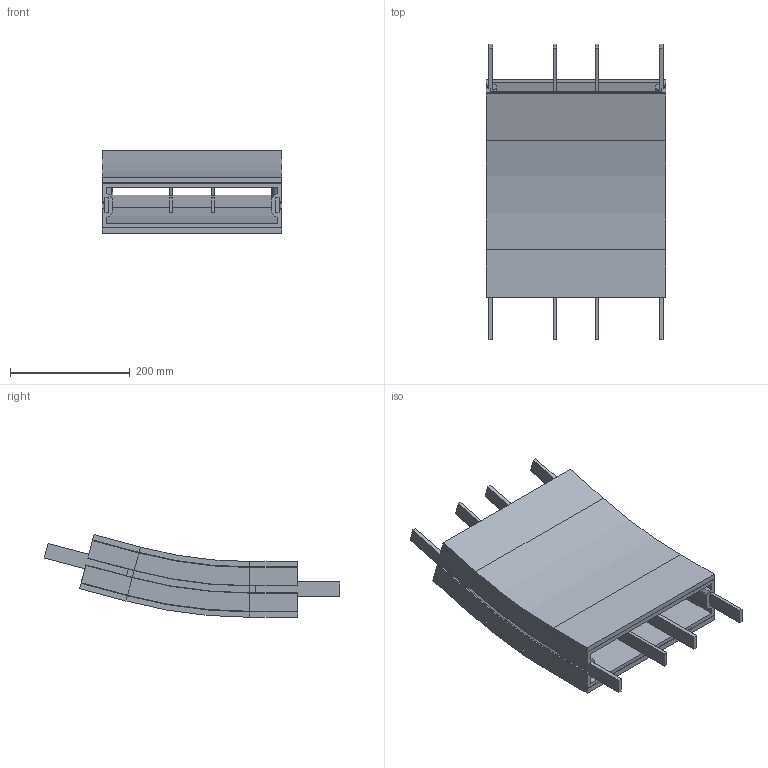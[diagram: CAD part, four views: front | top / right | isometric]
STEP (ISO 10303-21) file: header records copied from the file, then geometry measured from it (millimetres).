
FILE_DESCRIPTION (( 'STEP AP214' ), '1' );
FILE_NAME ('FBBV 15A300R750L80L80.00.step', '2026-05-29T10:33:31', ( '' ), ( '' ), 'SwSTEP 2.0', 'SolidWorks 2024', '' );
FILE_SCHEMA (( 'AUTOMOTIVE_DESIGN' ));
Length unit declared in the file: millimetre
Products named in the file (1): FBBV 15A300R750L80L80.00
Bounding box: 300 x 492.24 x 137.68 mm (x, y, z)
Volume: 4016114.1 mm3; surface area: 1083688.9 mm2
Topology: 11 solids, 11 shells, 375 faces, 845 edges, 492 vertices
Faces by surface type: plane 278, cone 66, cylinder 26, torus 5
Entity records: 10191 total; most frequent: DIRECTION 1724, CARTESIAN_POINT 1713, ORIENTED_EDGE 1690, EDGE_CURVE 845, VECTOR 718, LINE 718, AXIS2_PLACEMENT_3D 503, VERTEX_POINT 492
